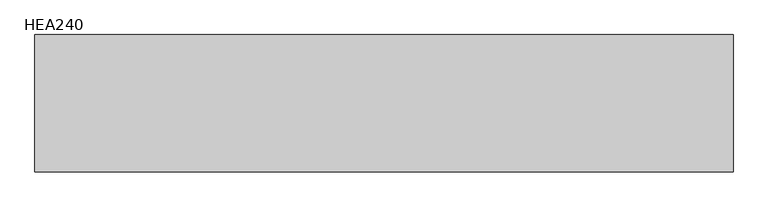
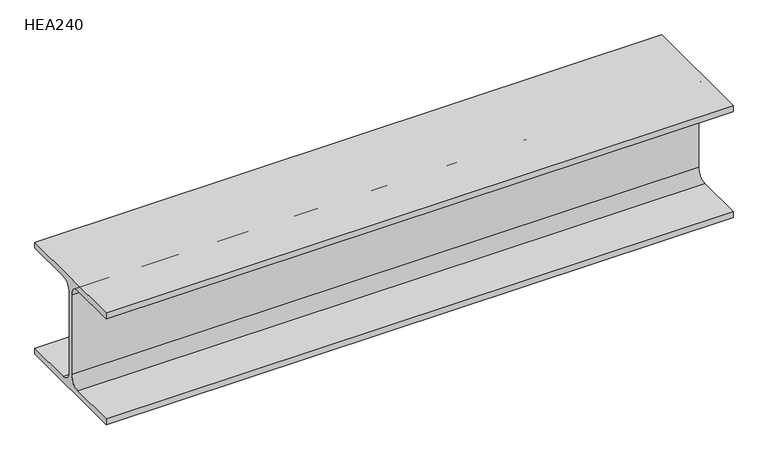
"""IFC4 building model written with IfcOpenShell, lengths in millimetres: beam geometry, HE-A : HEA240."""

import ifcopenshell
import ifcopenshell.guid

model = None  # the IFC model being written
_history = None  # IfcOwnerHistory: only IFC2X3 demands one
_inside = {}  # id of a spatial element -> (the spatial element, [elements in it])
_under = {}  # id of a project, library or spatial element -> (it, [spatial elements below it])
_declared = {}  # id of a project -> (the project, [libraries it declares])
_typed = {}  # id of a type object -> (the type object, [elements of that type])
_made_of = {}  # id of a material, layer set ... -> (it, [elements and type objects made of it])


def new_model(schema):
    """Start an empty IFC model of exactly this schema.

    Asked for "IFC4X3", IfcOpenShell would pick the latest addendum, in which some entities
    have other attributes; the version numbers below select the first issue.
    IFC2X3 requires an IfcOwnerHistory on every rooted entity: one is made here for all.
    """
    global model, _history
    if schema == "IFC4X3":
        model = ifcopenshell.file(schema_version=(4, 3, 0, 0))
    else:
        model = ifcopenshell.file(schema=schema)
    _inside.clear()
    _under.clear()
    _declared.clear()
    _typed.clear()
    _made_of.clear()
    _history = None
    if model.schema == "IFC2X3":
        org = make("IfcOrganization", Name="unknown")
        user = make(
            "IfcPersonAndOrganization",
            ThePerson=make("IfcPerson", FamilyName="unknown"),
            TheOrganization=org,
        )
        app = make(
            "IfcApplication",
            ApplicationDeveloper=org,
            Version="unknown",
            ApplicationFullName="unknown",
            ApplicationIdentifier="unknown",
        )
        _history = make(
            "IfcOwnerHistory",
            OwningUser=user,
            OwningApplication=app,
            ChangeAction="ADDED",
            CreationDate=0,
        )
    return model


def make(cls, **values):
    """One entity of the class cls with the attributes given. An attribute that is None is left unset."""
    return model.create_entity(
        cls, **{name: value for name, value in values.items() if value is not None}
    )


def rooted(cls, **values):
    """An entity with a GlobalId (a new one), such as an element, a storey or a relation."""
    return make(cls, GlobalId=ifcopenshell.guid.new(), OwnerHistory=_history, **values)


def si_unit(unit_type, name, prefix=None):
    """IfcSIUnit, for example si_unit("LENGTHUNIT", "METRE", prefix="MILLI")."""
    return make("IfcSIUnit", UnitType=unit_type, Prefix=prefix, Name=name)


def assignment(units):
    """IfcUnitAssignment: the units of a project."""
    return None if units is None else make("IfcUnitAssignment", Units=units)


def point(xyz):
    """IfcCartesianPoint."""
    return None if xyz is None else make("IfcCartesianPoint", Coordinates=xyz)


def direction(xyz):
    """IfcDirection."""
    return None if xyz is None else make("IfcDirection", DirectionRatios=xyz)


def frame(location, z_axis=None, x_axis=None):
    """IfcAxis2Placement3D, a coordinate frame: its origin and axes. An axis left out is left unset."""
    return make(
        "IfcAxis2Placement3D",
        Location=point(location),
        Axis=direction(z_axis),
        RefDirection=direction(x_axis),
    )


def frame_2d(location, x_axis=None):
    """IfcAxis2Placement2D, a coordinate frame in the plane: its origin and x axis."""
    return make(
        "IfcAxis2Placement2D", Location=point(location), RefDirection=direction(x_axis)
    )


def origin():
    """The frame at (0, 0, 0) with its axes left unset."""
    return frame((0.0, 0.0, 0.0))


def place(relative_to, where):
    """IfcLocalPlacement: puts the frame where relative to a parent placement (None: the world)."""
    return make(
        "IfcLocalPlacement", PlacementRelTo=relative_to, RelativePlacement=where
    )


def context(
    kind, dimensions, precision=None, world=None, true_north=None, identifier=None
):
    """IfcGeometricRepresentationContext, for example the 3D "Model" context."""
    return make(
        "IfcGeometricRepresentationContext",
        ContextIdentifier=identifier,
        ContextType=kind,
        CoordinateSpaceDimension=dimensions,
        Precision=precision,
        WorldCoordinateSystem=world,
        TrueNorth=true_north,
    )


def project(units=None, contexts=None):
    """IfcProject with its units and contexts."""
    return rooted(
        "IfcProject",
        Name="project",
        RepresentationContexts=contexts,
        UnitsInContext=assignment(units),
    )


def spatial(cls, under=None, at=None, **own):
    """A site, building, storey or space (cls), placed at a placement, below another one or the project."""
    s = rooted(cls, ObjectPlacement=at, **own)
    if under is not None:
        _under.setdefault(under.id(), (under, []))[1].append(s)
    return s


def polyline(points):
    """IfcPolyline through the points."""
    return make("IfcPolyline", Points=[point(p) for p in points])


def circle_curve(where, radius):
    """IfcCircle in the frame where."""
    return make("IfcCircle", Position=where, Radius=radius)


def trimmed(basis, trim1, trim2, sense, master):
    """IfcTrimmedCurve: the piece of a basis curve between two trims."""
    return make(
        "IfcTrimmedCurve",
        BasisCurve=basis,
        Trim1=trim1,
        Trim2=trim2,
        SenseAgreement=sense,
        MasterRepresentation=master,
    )


def segment(curve, same_sense, transition):
    """IfcCompositeCurveSegment."""
    return make(
        "IfcCompositeCurveSegment",
        Transition=transition,
        SameSense=same_sense,
        ParentCurve=curve,
    )


def composite_curve(segments, self_intersect=None):
    """IfcCompositeCurve: segments joined end to end."""
    return make("IfcCompositeCurve", Segments=segments, SelfIntersect=self_intersect)


def outline(outer, holes=None, kind="AREA"):
    """IfcArbitraryClosedProfileDef: a profile drawn as a closed curve; with holes, ...WithVoids."""
    if holes is None:
        return make("IfcArbitraryClosedProfileDef", ProfileType=kind, OuterCurve=outer)
    return make(
        "IfcArbitraryProfileDefWithVoids",
        ProfileType=kind,
        OuterCurve=outer,
        InnerCurves=holes,
    )


def extrude(swept, where, along, depth):
    """IfcExtrudedAreaSolid: the profile swept, set in the frame where, extruded along a direction by depth."""
    return make(
        "IfcExtrudedAreaSolid",
        SweptArea=swept,
        Position=where,
        ExtrudedDirection=direction(along),
        Depth=depth,
    )


def shape(context_of_items, identifier, shape_type, items):
    """IfcShapeRepresentation: the items that make up one representation, for example the "Body"."""
    return make(
        "IfcShapeRepresentation",
        ContextOfItems=context_of_items,
        RepresentationIdentifier=identifier,
        RepresentationType=shape_type,
        Items=items,
    )


def source(mapping_origin, context_of_items, identifier, shape_type, items):
    """IfcRepresentationMap: a shape defined once, which mapped items show again and again."""
    return make(
        "IfcRepresentationMap",
        MappingOrigin=mapping_origin,
        MappedRepresentation=shape(context_of_items, identifier, shape_type, items),
    )


def transform(
    local_origin,
    x_axis=None,
    y_axis=None,
    z_axis=None,
    scale=None,
    scale2=None,
    scale3=None,
    uniform=True,
):
    """IfcCartesianTransformationOperator3D, or its non-uniform kind. x_axis, y_axis, z_axis: its Axis1, 2, 3."""
    if uniform:
        return make(
            "IfcCartesianTransformationOperator3D",
            Axis1=direction(x_axis),
            Axis2=direction(y_axis),
            LocalOrigin=point(local_origin),
            Scale=scale,
            Axis3=direction(z_axis),
        )
    return make(
        "IfcCartesianTransformationOperator3DnonUniform",
        Axis1=direction(x_axis),
        Axis2=direction(y_axis),
        LocalOrigin=point(local_origin),
        Scale=scale,
        Axis3=direction(z_axis),
        Scale2=scale2,
        Scale3=scale3,
    )


def mapped(mapping_source, mapping_target):
    """IfcMappedItem: shows the shape of a source again, moved by a transform."""
    return make(
        "IfcMappedItem", MappingSource=mapping_source, MappingTarget=mapping_target
    )


def made_of(thing, what):
    """Note that an element or type object is made of a material, layer set ...; save() writes the relation."""
    if what is not None:
        _made_of.setdefault(what.id(), (what, []))[1].append(thing)
    return thing


def element(
    cls,
    number,
    at=None,
    inside=None,
    cuts=None,
    type_object=None,
    material=None,
    context=None,
    identifier="Body",
    shape_type=None,
    held_by="IfcProductDefinitionShape",
    body=None,
    shapes=None,
    **own,
):
    """One element of the class cls, such as IfcWall. Its Tag is "e" and its number.

    at: its placement. inside: the storey or other place that contains it. cuts: it is an
    opening in that element (IfcRelVoidsElement). A single representation is given by context,
    identifier, shape_type and body (its items); several are given by shapes. held_by: the class
    of the entity that holds the representations. save() writes the other relations.
    """
    e = rooted(cls, Tag="e%d" % number, ObjectPlacement=at, **own)
    if body is not None:
        shapes = [shape(context, identifier, shape_type, body)]
    if shapes is not None:
        e.Representation = make(held_by, Representations=shapes)
    if inside is not None:
        _inside.setdefault(inside.id(), (inside, []))[1].append(e)
    if cuts is not None:
        rooted(
            "IfcRelVoidsElement", RelatingBuildingElement=cuts, RelatedOpeningElement=e
        )
    if type_object is not None:
        _typed.setdefault(type_object.id(), (type_object, []))[1].append(e)
    return made_of(e, material)


def aggregate(whole, parts):
    """IfcRelAggregates: a whole, such as a stair, and the parts it consists of."""
    return rooted("IfcRelAggregates", RelatingObject=whole, RelatedObjects=parts)


def save(model, path):
    """Write the relations noted so far, then the file.

    IfcRelAggregates (storeys below a building ...), IfcRelContainedInSpatialStructure (elements
    in a storey), IfcRelDefinesByType, IfcRelAssociatesMaterial and IfcRelDeclares: one each for
    every whole, place, type object, material and project.
    """
    for whole, parts in _under.values():
        aggregate(whole, parts)
    for where, things in _inside.values():
        rooted(
            "IfcRelContainedInSpatialStructure",
            RelatedElements=things,
            RelatingStructure=where,
        )
    for kind, things in _typed.values():
        rooted("IfcRelDefinesByType", RelatedObjects=things, RelatingType=kind)
    for what, things in _made_of.values():
        rooted("IfcRelAssociatesMaterial", RelatedObjects=things, RelatingMaterial=what)
    for by, libraries in _declared.values():
        rooted("IfcRelDeclares", RelatingContext=by, RelatedDefinitions=libraries)
    model.write(path)


def hea240_b9c7735d(model_context):
    return source(origin(), model_context, "Body", "SweptSolid", [
        extrude(outline(composite_curve([segment(polyline([(120.0, -103.0), (120.0, -115.0), (-120.0, -115.0), (-120.0, -103.0), (-24.75, -103.0)]), True, "CONTINUOUS"), segment(trimmed(circle_curve(frame_2d((-24.75, -82.0)), 21.0), [point((-24.75, -103.0))], [point((-3.75, -82.0))], True, "CARTESIAN"), True, "CONTINUOUS"), segment(polyline([(-3.75, -82.0), (-3.75, 82.0)]), True, "CONTINUOUS"), segment(trimmed(circle_curve(frame_2d((-24.75, 82.0)), 21.0), [point((-3.75, 82.0))], [point((-24.75, 103.0))], True, "CARTESIAN"), True, "CONTINUOUS"), segment(polyline([(-24.75, 103.0), (-120.0, 103.0), (-120.0, 115.0), (120.0, 115.0), (120.0, 103.0), (24.75, 103.0)]), True, "CONTINUOUS"), segment(trimmed(circle_curve(frame_2d((24.75, 82.0)), 21.0), [point((24.75, 103.0))], [point((3.75, 82.0))], True, "CARTESIAN"), True, "CONTINUOUS"), segment(polyline([(3.75, 82.0), (3.75, -82.0)]), True, "CONTINUOUS"), segment(trimmed(circle_curve(frame_2d((24.75, -82.0)), 21.0), [point((3.75, -82.0))], [point((24.75, -103.0))], True, "CARTESIAN"), True, "CONTINUOUS"), segment(polyline([(24.75, -103.0), (120.0, -103.0)]), True, "CONTINUOUS")], self_intersect=False)), frame((-604.9899, 0.0, 0.0), z_axis=(1.0, 0.0, 0.0), x_axis=(0.0, 1.0, 0.0)), (0.0, 0.0, 1.0), 1219.2),
    ])


if __name__ == "__main__":
    model = new_model("IFC4")
    model_context = context("Model", 3, world=origin())
    ifc_project = project(units=[si_unit("LENGTHUNIT", "METRE", prefix="MILLI")], contexts=[model_context])
    site = spatial("IfcSite", under=ifc_project)
    building = spatial("IfcBuilding", under=site)
    placement = place(None, origin())
    hea240_shape = hea240_b9c7735d(model_context)
    element("IfcBeam", 1, ObjectType="HE-A : HEA240", at=placement, inside=building, context=model_context, shape_type="MappedRepresentation", body=[
        mapped(hea240_shape, transform((0.0, 0.0, 0.0), x_axis=(1.0, 0.0, 0.0), y_axis=(0.0, 1.0, 0.0), z_axis=(0.0, 0.0, 1.0))),
    ])
    save(model, "model.ifc")
